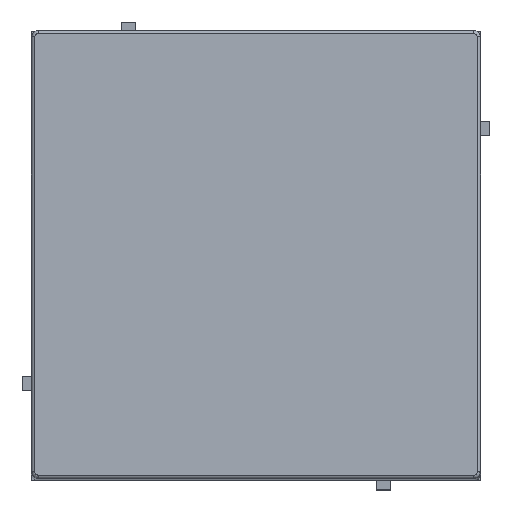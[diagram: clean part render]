
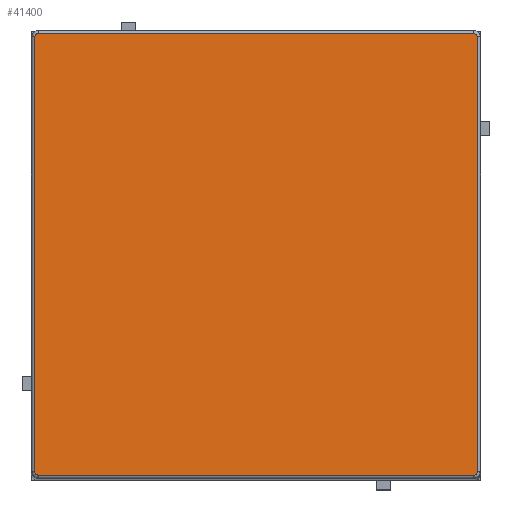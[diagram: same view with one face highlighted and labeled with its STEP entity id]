
A CAD part, top view. The second image highlights one B-rep face of the part: STEP entity #41400.
In plain terms, the highlighted planar face has unit normal (0, 0.053, 0.999).
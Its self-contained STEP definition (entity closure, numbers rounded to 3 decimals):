
#126 = EDGE_LOOP ( 'NONE', ( #32864, #22824, #21701, #4674, #48815, #27962, #35847, #31532 ) ) ;
#989 = CARTESIAN_POINT ( 'NONE',  ( 103.32, -16.418, 31.933 ) ) ;
#1605 = LINE ( 'NONE', #45992, #8139 ) ;
#3380 = CARTESIAN_POINT ( 'NONE',  ( 34.374, -16.625, 31.944 ) ) ;
#3603 = VERTEX_POINT ( 'NONE', #21343 ) ;
#3711 = VERTEX_POINT ( 'NONE', #3380 ) ;
#4177 = CARTESIAN_POINT ( 'NONE',  ( 103.511, -16.625, 31.944 ) ) ;
#4674 = ORIENTED_EDGE ( 'NONE', *, *, #7905, .T. ) ;
#4744 = CARTESIAN_POINT ( 'NONE',  ( 102.82, -16.625, 31.944 ) ) ;
#4779 = EDGE_CURVE ( 'NONE', #16127, #37782, #26483, .T. ) ;
#5553 = CARTESIAN_POINT ( 'NONE',  ( 34.374, 52.722, 28.237 ) ) ;
#6270 = EDGE_CURVE ( 'NONE', #3711, #27029, #44585, .T. ) ;
#6471 = CARTESIAN_POINT ( 'NONE',  ( 33.682, 52.722, 28.237 ) ) ;
#6805 = VECTOR ( 'NONE', #16211, 1000. ) ;
#7905 = EDGE_CURVE ( 'NONE', #45573, #19731, #26015, .T. ) ;
#8057 = CARTESIAN_POINT ( 'NONE',  ( 103.32, 52.515, 28.248 ) ) ;
#8139 = VECTOR ( 'NONE', #34507, 1000. ) ;
#8678 = CARTESIAN_POINT ( 'NONE',  ( 33.874, 52.223, 28.263 ) ) ;
#8840 = PLANE ( 'NONE',  #25884 ) ;
#10052 = LINE ( 'NONE', #34378, #27298 ) ;
#10848 = CARTESIAN_POINT ( 'NONE',  ( 102.82, 52.722, 28.237 ) ) ;
#14795 = CARTESIAN_POINT ( 'NONE',  ( 34.374, 52.722, 28.237 ) ) ;
#16127 = VERTEX_POINT ( 'NONE', #50336 ) ;
#16211 = DIRECTION ( 'NONE',  ( 1., 0., 0. ) ) ;
#17191 = CARTESIAN_POINT ( 'NONE',  ( 34.374, -16.625, 31.944 ) ) ;
#18981 =( BOUNDED_CURVE ( )  B_SPLINE_CURVE ( 3, ( #43927, #43660, #19076, #14795 ),
 .UNSPECIFIED., .F., .T. ) 
 B_SPLINE_CURVE_WITH_KNOTS ( ( 4, 4 ),
 ( 2.356, 3.927 ),
 .UNSPECIFIED. ) 
 CURVE ( )  GEOMETRIC_REPRESENTATION_ITEM ( )  RATIONAL_B_SPLINE_CURVE ( ( 1., 0.805, 0.805, 1. ) ) 
 REPRESENTATION_ITEM ( '' )  );
#19076 = CARTESIAN_POINT ( 'NONE',  ( 34.081, 52.722, 28.237 ) ) ;
#19731 = VERTEX_POINT ( 'NONE', #5553 ) ;
#20869 = CARTESIAN_POINT ( 'NONE',  ( 102.82, -16.625, 31.944 ) ) ;
#21130 = DIRECTION ( 'NONE',  ( 1., 0., 0. ) ) ;
#21343 = CARTESIAN_POINT ( 'NONE',  ( 103.32, 52.223, 28.263 ) ) ;
#21701 = ORIENTED_EDGE ( 'NONE', *, *, #48683, .F. ) ;
#22015 = DIRECTION ( 'NONE',  ( -1., 0., 0. ) ) ;
#22119 =( BOUNDED_CURVE ( )  B_SPLINE_CURVE ( 3, ( #44693, #31860, #8057, #23847 ),
 .UNSPECIFIED., .F., .F. ) 
 B_SPLINE_CURVE_WITH_KNOTS ( ( 4, 4 ),
 ( 2.356, 3.927 ),
 .UNSPECIFIED. ) 
 CURVE ( )  GEOMETRIC_REPRESENTATION_ITEM ( )  RATIONAL_B_SPLINE_CURVE ( ( 1., 0.805, 0.805, 1. ) ) 
 REPRESENTATION_ITEM ( '' )  );
#22824 = ORIENTED_EDGE ( 'NONE', *, *, #35806, .T. ) ;
#23847 = CARTESIAN_POINT ( 'NONE',  ( 103.32, 52.223, 28.263 ) ) ;
#24503 = EDGE_CURVE ( 'NONE', #52337, #19731, #18981, .T. ) ;
#24883 = DIRECTION ( 'NONE',  ( 0., 0.053, 0.999 ) ) ;
#25748 = CARTESIAN_POINT ( 'NONE',  ( 33.874, -16.418, 31.933 ) ) ;
#25884 = AXIS2_PLACEMENT_3D ( 'NONE', #41433, #24883, #21130 ) ;
#26015 = LINE ( 'NONE', #6471, #28468 ) ;
#26344 = DIRECTION ( 'NONE',  ( 0., -0.999, 0.053 ) ) ;
#26483 =( BOUNDED_CURVE ( )  B_SPLINE_CURVE ( 3, ( #37617, #989, #41361, #4744 ),
 .UNSPECIFIED., .F., .T. ) 
 B_SPLINE_CURVE_WITH_KNOTS ( ( 4, 4 ),
 ( 2.356, 3.927 ),
 .UNSPECIFIED. ) 
 CURVE ( )  GEOMETRIC_REPRESENTATION_ITEM ( )  RATIONAL_B_SPLINE_CURVE ( ( 1., 0.805, 0.805, 1. ) ) 
 REPRESENTATION_ITEM ( '' )  );
#27029 = VERTEX_POINT ( 'NONE', #46931 ) ;
#27298 = VECTOR ( 'NONE', #26344, 1000. ) ;
#27962 = ORIENTED_EDGE ( 'NONE', *, *, #50824, .T. ) ;
#28468 = VECTOR ( 'NONE', #22015, 1000. ) ;
#28859 = FACE_OUTER_BOUND ( 'NONE', #126, .T. ) ;
#29272 = EDGE_CURVE ( 'NONE', #3711, #37782, #31723, .T. ) ;
#31532 = ORIENTED_EDGE ( 'NONE', *, *, #29272, .T. ) ;
#31723 = LINE ( 'NONE', #4177, #6805 ) ;
#31860 = CARTESIAN_POINT ( 'NONE',  ( 103.113, 52.722, 28.237 ) ) ;
#32864 = ORIENTED_EDGE ( 'NONE', *, *, #4779, .F. ) ;
#34378 = CARTESIAN_POINT ( 'NONE',  ( 33.874, -16.816, 31.954 ) ) ;
#34507 = DIRECTION ( 'NONE',  ( 0., 0.999, -0.053 ) ) ;
#35806 = EDGE_CURVE ( 'NONE', #16127, #3603, #1605, .T. ) ;
#35847 = ORIENTED_EDGE ( 'NONE', *, *, #6270, .F. ) ;
#37617 = CARTESIAN_POINT ( 'NONE',  ( 103.32, -16.126, 31.917 ) ) ;
#37782 = VERTEX_POINT ( 'NONE', #20869 ) ;
#41361 = CARTESIAN_POINT ( 'NONE',  ( 103.113, -16.625, 31.944 ) ) ;
#41400 = ADVANCED_FACE ( 'NONE', ( #28859 ), #8840, .T. ) ;
#41433 = CARTESIAN_POINT ( 'NONE',  ( 68.597, 18.049, 30.09 ) ) ;
#43660 = CARTESIAN_POINT ( 'NONE',  ( 33.874, 52.515, 28.248 ) ) ;
#43927 = CARTESIAN_POINT ( 'NONE',  ( 33.874, 52.223, 28.263 ) ) ;
#44585 =( BOUNDED_CURVE ( )  B_SPLINE_CURVE ( 3, ( #17191, #50364, #25748, #49823 ),
 .UNSPECIFIED., .F., .F. ) 
 B_SPLINE_CURVE_WITH_KNOTS ( ( 4, 4 ),
 ( 2.356, 3.927 ),
 .UNSPECIFIED. ) 
 CURVE ( )  GEOMETRIC_REPRESENTATION_ITEM ( )  RATIONAL_B_SPLINE_CURVE ( ( 1., 0.805, 0.805, 1. ) ) 
 REPRESENTATION_ITEM ( '' )  );
#44693 = CARTESIAN_POINT ( 'NONE',  ( 102.82, 52.722, 28.237 ) ) ;
#45573 = VERTEX_POINT ( 'NONE', #10848 ) ;
#45992 = CARTESIAN_POINT ( 'NONE',  ( 103.32, 52.913, 28.226 ) ) ;
#46931 = CARTESIAN_POINT ( 'NONE',  ( 33.874, -16.126, 31.917 ) ) ;
#48683 = EDGE_CURVE ( 'NONE', #45573, #3603, #22119, .T. ) ;
#48815 = ORIENTED_EDGE ( 'NONE', *, *, #24503, .F. ) ;
#49823 = CARTESIAN_POINT ( 'NONE',  ( 33.874, -16.126, 31.917 ) ) ;
#50336 = CARTESIAN_POINT ( 'NONE',  ( 103.32, -16.126, 31.917 ) ) ;
#50364 = CARTESIAN_POINT ( 'NONE',  ( 34.081, -16.625, 31.944 ) ) ;
#50824 = EDGE_CURVE ( 'NONE', #52337, #27029, #10052, .T. ) ;
#52337 = VERTEX_POINT ( 'NONE', #8678 ) ;
